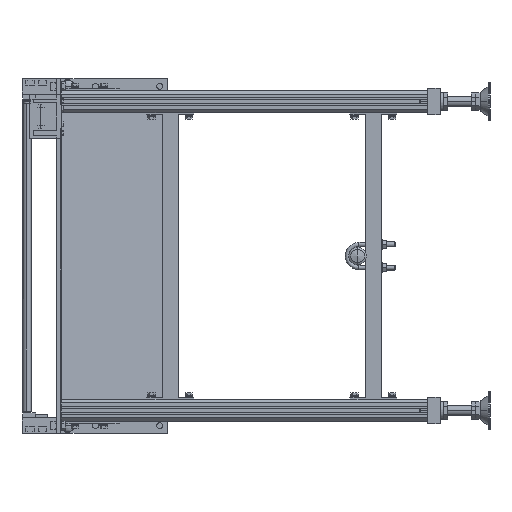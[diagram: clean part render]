
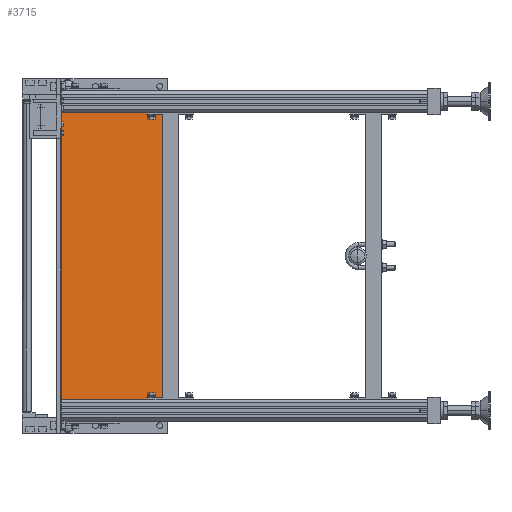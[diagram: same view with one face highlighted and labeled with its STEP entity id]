
A CAD part, left-side view. The second image highlights one B-rep face of the part: STEP entity #3715.
In plain terms, the highlighted planar face has unit normal (-0.993, -0.116, 0).
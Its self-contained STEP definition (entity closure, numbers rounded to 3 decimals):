
#3715=ADVANCED_FACE('',(#24209),#24208,.F.);
#24208=PLANE('',#50641);
#24209=FACE_OUTER_BOUND('',#50642,.T.);
#50638=CARTESIAN_POINT('',(809.662,-242.432,-270.));
#50639=DIRECTION('',(0.993,0.116,0.));
#50640=DIRECTION('',(-0.116,0.993,0.));
#50641=AXIS2_PLACEMENT_3D('',#50638,#50639,#50640);
#50642=EDGE_LOOP('',(#67765,#67766,#67767,#67768));
#67765=ORIENTED_EDGE('',*,*,#80271,.T.);
#67766=ORIENTED_EDGE('',*,*,#80281,.F.);
#67767=ORIENTED_EDGE('',*,*,#80262,.F.);
#67768=ORIENTED_EDGE('',*,*,#80310,.T.);
#80262=EDGE_CURVE('',#114667,#114674,#114675,.T.);
#80271=EDGE_CURVE('',#114716,#114730,#114737,.T.);
#80281=EDGE_CURVE('',#114674,#114730,#114805,.T.);
#80310=EDGE_CURVE('',#114667,#114716,#115005,.T.);
#114667=VERTEX_POINT('',#159429);
#114674=VERTEX_POINT('',#159433);
#114675=LINE('',#159434,#159435);
#114716=VERTEX_POINT('',#159457);
#114730=VERTEX_POINT('',#159465);
#114737=LINE('',#159469,#159470);
#114805=LINE('',#159507,#159508);
#115005=LINE('',#159620,#159621);
#159429=CARTESIAN_POINT('',(788.5,-61.5,260.));
#159433=CARTESIAN_POINT('',(808.5,-232.5,260.));
#159434=CARTESIAN_POINT('',(788.5,-61.5,260.));
#159435=VECTOR('',#159436,172.166);
#159436=DIRECTION('',(0.116,-0.993,0.));
#159457=CARTESIAN_POINT('',(788.5,-61.5,-260.));
#159465=CARTESIAN_POINT('',(808.5,-232.5,-260.));
#159469=CARTESIAN_POINT('',(788.5,-61.5,-260.));
#159470=VECTOR('',#159471,172.166);
#159471=DIRECTION('',(0.116,-0.993,0.));
#159507=CARTESIAN_POINT('',(808.5,-232.5,260.));
#159508=VECTOR('',#159509,520.);
#159509=DIRECTION('',(0.,0.,-1.));
#159620=CARTESIAN_POINT('',(788.5,-61.5,260.));
#159621=VECTOR('',#159622,520.);
#159622=DIRECTION('',(0.,0.,-1.));
